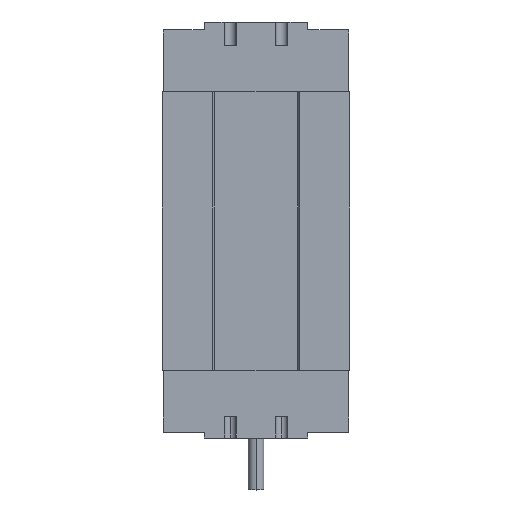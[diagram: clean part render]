
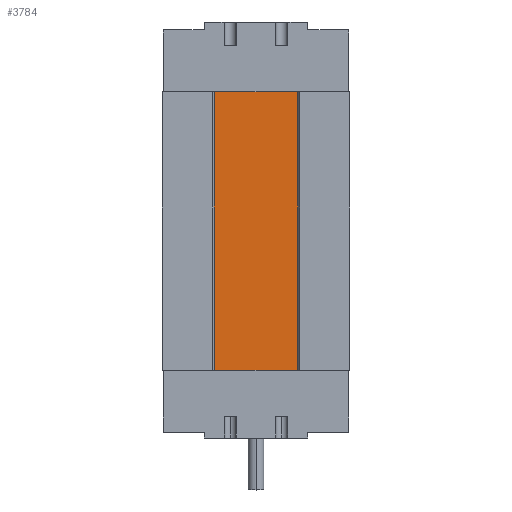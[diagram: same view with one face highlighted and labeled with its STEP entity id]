
A CAD part, top view. The second image highlights one B-rep face of the part: STEP entity #3784.
In plain terms, the highlighted planar face has unit normal (0, 0, 1).
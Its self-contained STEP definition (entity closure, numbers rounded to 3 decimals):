
#3205 = EDGE_CURVE ( 'NONE', #3220, #3229, #7900, .T. ) ;
#3220 = VERTEX_POINT ( 'NONE', #7925 ) ;
#3229 = VERTEX_POINT ( 'NONE', #7923 ) ;
#3708 = VERTEX_POINT ( 'NONE', #8767 ) ;
#3719 = EDGE_LOOP ( 'NONE', ( #3786, #3783, #3785, #3770 ) ) ;
#3766 = EDGE_CURVE ( 'NONE', #3708, #3776, #8862, .T. ) ;
#3769 = EDGE_CURVE ( 'NONE', #3708, #3220, #8816, .T. ) ;
#3770 = ORIENTED_EDGE ( 'NONE', *, *, #3769, .T. ) ;
#3776 = VERTEX_POINT ( 'NONE', #8817 ) ;
#3780 = EDGE_CURVE ( 'NONE', #3776, #3229, #8849, .T. ) ;
#3783 = ORIENTED_EDGE ( 'NONE', *, *, #3780, .F. ) ;
#3784 = ADVANCED_FACE ( 'NONE', ( #8843 ), #8857, .F. ) ;
#3785 = ORIENTED_EDGE ( 'NONE', *, *, #3766, .F. ) ;
#3786 = ORIENTED_EDGE ( 'NONE', *, *, #3205, .T. ) ;
#7889 = DIRECTION ( 'NONE',  ( 1., 0., 0. ) ) ;
#7890 = VECTOR ( 'NONE', #7889, 1000. ) ;
#7899 = CARTESIAN_POINT ( 'NONE',  ( -21., 0., 19.5 ) ) ;
#7900 = LINE ( 'NONE', #7899, #7890 ) ;
#7923 = CARTESIAN_POINT ( 'NONE',  ( 21., 0., 19.5 ) ) ;
#7925 = CARTESIAN_POINT ( 'NONE',  ( -21., 0., 19.5 ) ) ;
#8767 = CARTESIAN_POINT ( 'NONE',  ( -21., 140., 19.5 ) ) ;
#8816 = LINE ( 'NONE', #8855, #8854 ) ;
#8817 = CARTESIAN_POINT ( 'NONE',  ( 21., 140., 19.5 ) ) ;
#8840 = AXIS2_PLACEMENT_3D ( 'NONE', #8897, #8896, #8895 ) ;
#8841 = DIRECTION ( 'NONE',  ( 0., -1., 0. ) ) ;
#8842 = VECTOR ( 'NONE', #8841, 1000. ) ;
#8843 = FACE_OUTER_BOUND ( 'NONE', #3719, .T. ) ;
#8848 = CARTESIAN_POINT ( 'NONE',  ( 21., 140., 19.5 ) ) ;
#8849 = LINE ( 'NONE', #8848, #8842 ) ;
#8853 = DIRECTION ( 'NONE',  ( 0., -1., 0. ) ) ;
#8854 = VECTOR ( 'NONE', #8853, 1000. ) ;
#8855 = CARTESIAN_POINT ( 'NONE',  ( -21., 140., 19.5 ) ) ;
#8857 = PLANE ( 'NONE',  #8840 ) ;
#8859 = DIRECTION ( 'NONE',  ( 1., 0., 0. ) ) ;
#8860 = VECTOR ( 'NONE', #8859, 1000. ) ;
#8861 = CARTESIAN_POINT ( 'NONE',  ( -21., 140., 19.5 ) ) ;
#8862 = LINE ( 'NONE', #8861, #8860 ) ;
#8895 = DIRECTION ( 'NONE',  ( -1., 0., 0. ) ) ;
#8896 = DIRECTION ( 'NONE',  ( 0., 0., -1. ) ) ;
#8897 = CARTESIAN_POINT ( 'NONE',  ( -21., 140., 19.5 ) ) ;
